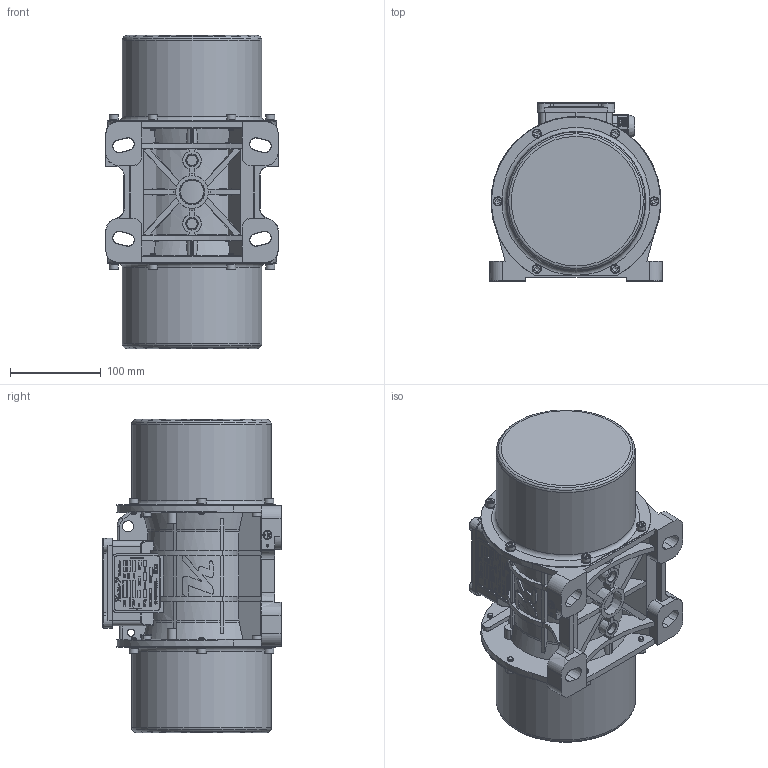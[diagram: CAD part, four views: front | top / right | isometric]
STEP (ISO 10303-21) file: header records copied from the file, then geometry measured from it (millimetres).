
FILE_DESCRIPTION(/* description */ (''),/* implementation_level */ '2;1');
FILE_NAME(/* name */ '3 NO MOTOR B TAS.stp',/* time_stamp */ '2026-08-31T12:43:49+03:00',/* author */ ('PC'),/* organization */ (''),/* preprocessor_version */ 'ST-DEVELOPER v20.1',/* originating_system */ 'Autodesk Inventor 2026',/* authorisation */ '');
FILE_SCHEMA (('AUTOMOTIVE_DESIGN { 1 0 10303 214 3 1 1 }'));
Products named in the file (1): 3 NO MOTOR B TAS
Bounding box: 190.76 x 196.02 x 344.6 mm (x, y, z)
Volume: 6267151.2 mm3; surface area: 352614.6 mm2
Topology: 1 solids, 30 shells, 4199 faces, 11408 edges, 7545 vertices
Faces by surface type: plane 2667, bspline 997, cylinder 292, cone 156, torus 87
Full cylindrical faces by diameter (mm): 4.917 x6, 6 x24, 6.4 x12, 6.5 x12, 8.5 x6, 10 x14, 14 x1, 15 x1, 20 x1, 22 x1, 153.6 x2
Entity records: 150081 total; most frequent: CARTESIAN_POINT 47564, ORIENTED_EDGE 22754, DIRECTION 16050, EDGE_CURVE 11377, LINE 7770, VECTOR 7770, VERTEX_POINT 7545, EDGE_LOOP 4588
